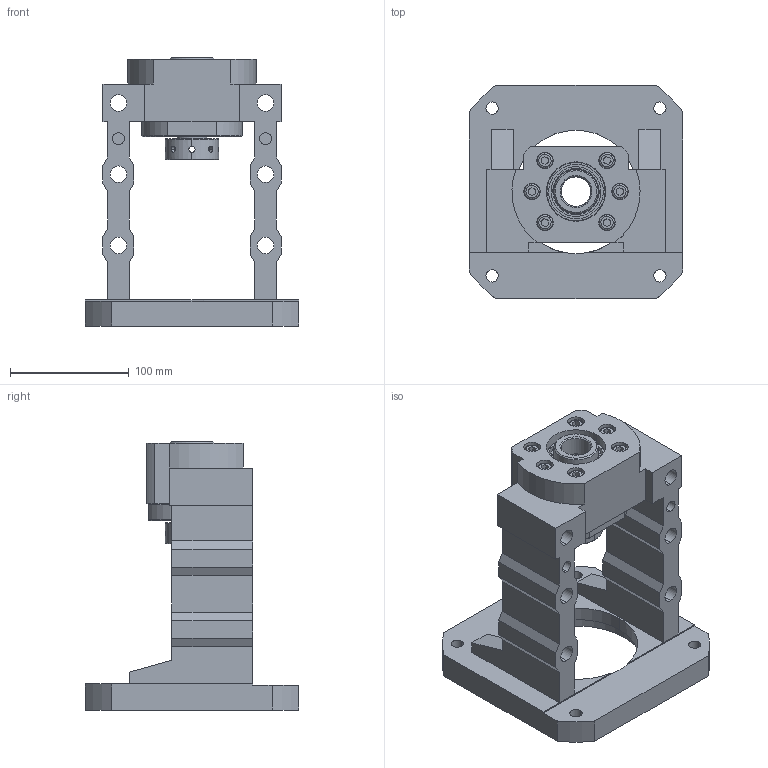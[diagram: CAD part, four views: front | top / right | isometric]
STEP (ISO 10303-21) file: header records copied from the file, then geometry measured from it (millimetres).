
FILE_DESCRIPTION (( 'STEP AP203' ), '1' );
FILE_NAME ('MBCS25-H²Õ¦X¥ó.STEP', '2022-10-20T06:10:21', ( '' ), ( '' ), 'SwSTEP 2.0', 'SolidWorks 2018', '' );
FILE_SCHEMA (( 'CONFIG_CONTROL_DESIGN' ));
Length unit declared in the file: millimetre
Products named in the file (1): MBCS25-H組合件
Bounding box: 180 x 180 x 226 mm (x, y, z)
Surface area: 219725 mm2 (no closed solid volume)
Topology: 0 solids, 24 shells, 352 faces, 975 edges, 641 vertices
Faces by surface type: plane 134, cylinder 130, cone 60, torus 26, bspline 2
Entity records: 15405 total; most frequent: CARTESIAN_POINT 6297, DIRECTION 1946, ORIENTED_EDGE 1721, EDGE_CURVE 967, AXIS2_PLACEMENT_3D 738, VERTEX_POINT 641, LINE 470, VECTOR 470
